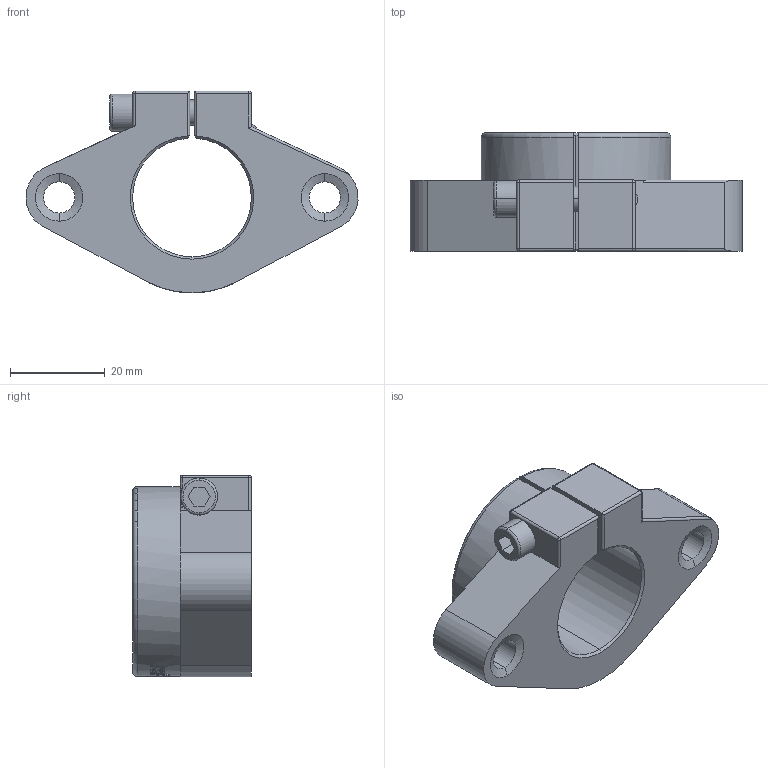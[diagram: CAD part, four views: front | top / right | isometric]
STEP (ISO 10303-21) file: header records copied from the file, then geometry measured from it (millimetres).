
FILE_DESCRIPTION (( 'STEP AP214' ), '1' );
FILE_NAME ('SHF25.STEP', '2020-11-02T09:32:59', ( '' ), ( '' ), 'SwSTEP 2.0', 'SolidWorks 2018', '' );
FILE_SCHEMA (( 'AUTOMOTIVE_DESIGN' ));
Length unit declared in the file: millimetre
Products named in the file (1): SHF25
Bounding box: 69.95 x 25 x 42.49 mm (x, y, z)
Volume: 27695.1 mm3; surface area: 10389.4 mm2
Topology: 1 solids, 1 shells, 188 faces, 485 edges, 305 vertices
Faces by surface type: bspline 64, plane 52, cylinder 48, cone 17, sphere 4, torus 3
Entity records: 13281 total; most frequent: CARTESIAN_POINT 8015, ORIENTED_EDGE 958, DIRECTION 625, EDGE_CURVE 479, VERTEX_POINT 305, AXIS2_PLACEMENT_3D 255, B_SPLINE_CURVE_WITH_KNOTS 227, EDGE_LOOP 206
